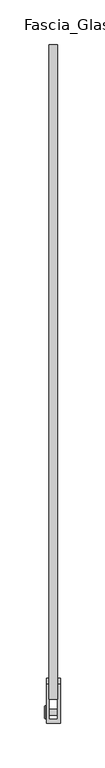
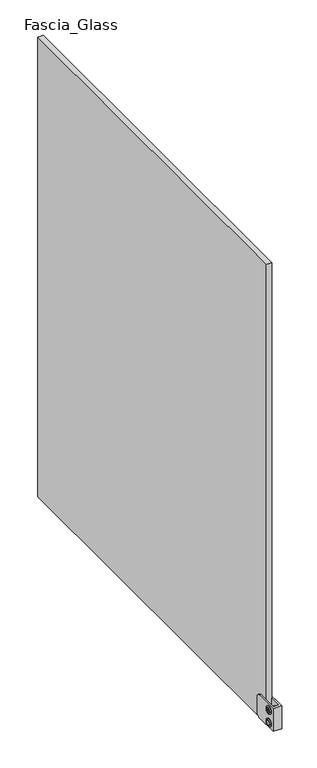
"""IFC4 building model written with IfcOpenShell, lengths in millimetres: railing geometry, Baluster-Excess-Fill-Straight-Panel-VIVA : Fascia_Glass."""

from ifc_helpers import new_model, si_unit, point, frame, origin, place, context, project, spatial, polyline, circle_curve, ellipse_curve, trimmed, outline, extrude, source, transform, mapped, element, save
from ifc_brep_helpers import plane_surface, cylinder_surface, revolved_surface, advanced_brep


def fascia_glass_6bf159dd(model_context):
    return source(origin(), model_context, "Body", "SolidModel", [
        advanced_brep(
        [(36.7665, -753.5969409, 138.7358896), (24.0665, -753.5969409, 138.7358896), (24.0665, -746.506049, 138.7358896), (36.7665, -746.506049, 138.7358896), (24.0665, -757.459284, 138.7358896), (24.0665, -742.6437059, 138.7358896), (23.199388, -751.7075703, 138.7358896), (36.7665, -751.7075703, 138.7358896), (36.7665, -748.3954196, 138.7358896), (23.199388, -748.3954196, 138.7358896), (23.2316551, -757.459284, 138.7358896), (21.9503831, -756.178012, 138.7358896), (21.9503831, -743.9249779, 138.7358896), (23.2316551, -742.6437059, 138.7358896), (21.9503831, -754.3500905, 138.7358896), (21.9503831, -745.7528994, 138.7358896), (23.199388, -754.3500905, 138.7358896), (23.199388, -745.7528994, 138.7358896)],
        [
            (0, 1),
            (1, 2, circle_curve(frame((24.0665, -750.0514949, 138.7358896), z_axis=(1.0, 0.0, 0.0), x_axis=(0.0, 1.0, 0.0)), 3.5454459)),
            (2, 3),
            (3, 0, circle_curve(frame((36.7665, -750.0514949, 138.7358896), z_axis=(-1.0, 0.0, 0.0), x_axis=(0.0, 1.0, 0.0)), 3.5454459)),
            (2, 1, circle_curve(frame((24.0665, -750.0514949, 138.7358896), z_axis=(1.0, 0.0, 0.0), x_axis=(0.0, 1.0, 0.0)), 3.5454459)),
            (0, 3, circle_curve(frame((36.7665, -750.0514949, 138.7358896), z_axis=(-1.0, 0.0, 0.0), x_axis=(0.0, 1.0, 0.0)), 3.5454459)),
            (1, 4),
            (4, 5, circle_curve(frame((24.0665, -750.0514949, 138.7358896), z_axis=(1.0, 0.0, 0.0), x_axis=(0.0, 1.0, 0.0)), 7.4077891)),
            (5, 2),
            (5, 4, circle_curve(frame((24.0665, -750.0514949, 138.7358896), z_axis=(1.0, 0.0, 0.0), x_axis=(0.0, 1.0, 0.0)), 7.4077891)),
            (6, 7),
            (7, 8, circle_curve(frame((36.7665, -750.0514949, 138.7358896), z_axis=(1.0, 0.0, 0.0), x_axis=(0.0, 1.0, 0.0)), 1.6560754)),
            (8, 9),
            (9, 6, circle_curve(frame((23.199388, -750.0514949, 138.7358896), z_axis=(-1.0, 0.0, 0.0), x_axis=(0.0, 1.0, 0.0)), 1.6560754)),
            (8, 7, circle_curve(frame((36.7665, -750.0514949, 138.7358896), z_axis=(1.0, 0.0, 0.0), x_axis=(0.0, 1.0, 0.0)), 1.6560754)),
            (6, 9, circle_curve(frame((23.199388, -750.0514949, 138.7358896), z_axis=(-1.0, 0.0, 0.0), x_axis=(0.0, 1.0, 0.0)), 1.6560754)),
            (10, 11, circle_curve(frame((23.2316551, -756.178012, 138.7358896), z_axis=(0.0, 0.0, -1.0), x_axis=(0.0, -1.0, 0.0)), 1.281272)),
            (11, 12, circle_curve(frame((21.9503831, -750.0514949, 138.7358896), z_axis=(1.0, 0.0, 0.0), x_axis=(0.0, 1.0, 0.0)), 6.1265171)),
            (12, 13, circle_curve(frame((23.2316551, -743.9249779, 138.7358896), z_axis=(0.0, 0.0, -1.0), x_axis=(0.0, 1.0, 0.0)), 1.281272)),
            (13, 10, circle_curve(frame((23.2316551, -750.0514949, 138.7358896), z_axis=(-1.0, 0.0, 0.0), x_axis=(0.0, 1.0, 0.0)), 7.4077891)),
            (12, 11, circle_curve(frame((21.9503831, -750.0514949, 138.7358896), z_axis=(1.0, 0.0, 0.0), x_axis=(0.0, 1.0, 0.0)), 6.1265171)),
            (10, 13, circle_curve(frame((23.2316551, -750.0514949, 138.7358896), z_axis=(-1.0, 0.0, 0.0), x_axis=(0.0, 1.0, 0.0)), 7.4077891)),
            (11, 14),
            (14, 15, circle_curve(frame((21.9503831, -750.0514949, 138.7358896), z_axis=(1.0, 0.0, 0.0), x_axis=(0.0, 1.0, 0.0)), 4.2985955)),
            (15, 12),
            (15, 14, circle_curve(frame((21.9503831, -750.0514949, 138.7358896), z_axis=(1.0, 0.0, 0.0), x_axis=(0.0, 1.0, 0.0)), 4.2985955)),
            (4, 10),
            (13, 5),
            (7, 0),
            (3, 8),
            (14, 16),
            (16, 17, circle_curve(frame((23.199388, -750.0514949, 138.7358896), z_axis=(1.0, 0.0, 0.0), x_axis=(0.0, 1.0, 0.0)), 4.2985955)),
            (17, 15),
            (17, 16, circle_curve(frame((23.199388, -750.0514949, 138.7358896), z_axis=(1.0, 0.0, 0.0), x_axis=(0.0, 1.0, 0.0)), 4.2985955)),
            (16, 6),
            (9, 17),
        ],
        [
            cylinder_surface(frame((27.5632331, -750.0514949, 138.7358896), z_axis=(1.0, 0.0, 0.0), x_axis=(0.0, 1.0, 0.0)), 3.5454459),
            plane_surface(frame((24.0665, -750.0514949, 138.7358896), z_axis=(1.0, 0.0, 0.0), x_axis=(0.0, 1.0, 0.0))),
            revolved_surface(polyline([(36.7665, -748.3954195, 138.7358896), (23.199388, -748.3954195, 138.7358896)]), (27.5632331, -750.0514949, 138.7358896), (1.0, 0.0, 0.0)),
            revolved_surface(trimmed(ellipse_curve(frame((23.2316551, -743.9249779, 138.7358896), z_axis=(0.0, 0.0, -1.0), x_axis=(0.0, 1.0, 0.0)), 1.281272, 1.281272), [point((21.9503831, -743.9249779, 138.7358896))], [point((23.2316551, -742.6437059, 138.7358896))], True, "CARTESIAN"), (27.5632331, -750.0514949, 138.7358896), (1.0, 0.0, 0.0)),
            plane_surface(frame((21.9503831, -750.0514949, 138.7358896), z_axis=(-1.0, 0.0, 0.0), x_axis=(0.0, 1.0, 0.0))),
            cylinder_surface(frame((27.5632331, -750.0514949, 138.7358896), z_axis=(1.0, 0.0, 0.0), x_axis=(0.0, 1.0, 0.0)), 7.4077891),
            plane_surface(frame((36.7665, -750.0514949, 138.7358896), z_axis=(1.0, 0.0, 0.0), x_axis=(0.0, 1.0, 0.0))),
            revolved_surface(polyline([(23.199388, -745.7528993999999, 138.7358896), (21.9503831, -745.7528993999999, 138.7358896)]), (27.5632331, -750.0514949, 138.7358896), (1.0, 0.0, 0.0)),
            plane_surface(frame((23.199388, -750.0514949, 138.7358896), z_axis=(-1.0, 0.0, 0.0), x_axis=(0.0, 1.0, 0.0))),
        ],
        [
            (0, [[1, 2, 3, 4]]),
            (0, [[-3, 5, -1, 6]]),
            (1, [[7, 8, 9, -2]]),
            (1, [[-9, 10, -7, -5]]),
            (2, [[11, 12, 13, 14]]),
            (2, [[-13, 15, -11, 16]]),
            (3, [[17, 18, 19, 20]]),
            (3, [[-19, 21, -17, 22]]),
            (4, [[23, 24, 25, -18]]),
            (4, [[-25, 26, -23, -21]]),
            (5, [[27, -20, 28, -8]]),
            (5, [[-28, -22, -27, -10]]),
            (6, [[29, -4, 30, -12]]),
            (6, [[-30, -6, -29, -15]]),
            (7, [[31, 32, 33, -24]]),
            (7, [[-33, 34, -31, -26]]),
            (8, [[35, -14, 36, -32]]),
            (8, [[-36, -16, -35, -34]]),
        ],
    ),
        advanced_brep(
        [(36.7665, -753.5969409, 114.1296396), (24.0665, -753.5969409, 114.1296396), (24.0665, -746.506049, 114.1296396), (36.7665, -746.506049, 114.1296396), (24.0665, -757.459284, 114.1296396), (24.0665, -742.6437059, 114.1296396), (23.199388, -751.7075703, 114.1296396), (36.7665, -751.7075703, 114.1296396), (36.7665, -748.3954196, 114.1296396), (23.199388, -748.3954196, 114.1296396), (23.2316551, -757.459284, 114.1296396), (21.9503831, -756.178012, 114.1296396), (21.9503831, -743.9249779, 114.1296396), (23.2316551, -742.6437059, 114.1296396), (21.9503831, -754.3500905, 114.1296396), (21.9503831, -745.7528994, 114.1296396), (23.199388, -754.3500905, 114.1296396), (23.199388, -745.7528994, 114.1296396)],
        [
            (0, 1),
            (1, 2, circle_curve(frame((24.0665, -750.0514949, 114.1296396), z_axis=(1.0, 0.0, 0.0), x_axis=(0.0, 1.0, 0.0)), 3.5454459)),
            (2, 3),
            (3, 0, circle_curve(frame((36.7665, -750.0514949, 114.1296396), z_axis=(-1.0, 0.0, 0.0), x_axis=(0.0, 1.0, 0.0)), 3.5454459)),
            (2, 1, circle_curve(frame((24.0665, -750.0514949, 114.1296396), z_axis=(1.0, 0.0, 0.0), x_axis=(0.0, 1.0, 0.0)), 3.5454459)),
            (0, 3, circle_curve(frame((36.7665, -750.0514949, 114.1296396), z_axis=(-1.0, 0.0, 0.0), x_axis=(0.0, 1.0, 0.0)), 3.5454459)),
            (1, 4),
            (4, 5, circle_curve(frame((24.0665, -750.0514949, 114.1296396), z_axis=(1.0, 0.0, 0.0), x_axis=(0.0, 1.0, 0.0)), 7.4077891)),
            (5, 2),
            (5, 4, circle_curve(frame((24.0665, -750.0514949, 114.1296396), z_axis=(1.0, 0.0, 0.0), x_axis=(0.0, 1.0, 0.0)), 7.4077891)),
            (6, 7),
            (7, 8, circle_curve(frame((36.7665, -750.0514949, 114.1296396), z_axis=(1.0, 0.0, 0.0), x_axis=(0.0, 1.0, 0.0)), 1.6560754)),
            (8, 9),
            (9, 6, circle_curve(frame((23.199388, -750.0514949, 114.1296396), z_axis=(-1.0, 0.0, 0.0), x_axis=(0.0, 1.0, 0.0)), 1.6560754)),
            (8, 7, circle_curve(frame((36.7665, -750.0514949, 114.1296396), z_axis=(1.0, 0.0, 0.0), x_axis=(0.0, 1.0, 0.0)), 1.6560754)),
            (6, 9, circle_curve(frame((23.199388, -750.0514949, 114.1296396), z_axis=(-1.0, 0.0, 0.0), x_axis=(0.0, 1.0, 0.0)), 1.6560754)),
            (10, 11, circle_curve(frame((23.2316551, -756.178012, 114.1296396), z_axis=(0.0, 0.0, -1.0), x_axis=(0.0, -1.0, 0.0)), 1.281272)),
            (11, 12, circle_curve(frame((21.9503831, -750.0514949, 114.1296396), z_axis=(1.0, 0.0, 0.0), x_axis=(0.0, 1.0, 0.0)), 6.1265171)),
            (12, 13, circle_curve(frame((23.2316551, -743.9249779, 114.1296396), z_axis=(0.0, 0.0, -1.0), x_axis=(0.0, 1.0, 0.0)), 1.281272)),
            (13, 10, circle_curve(frame((23.2316551, -750.0514949, 114.1296396), z_axis=(-1.0, 0.0, 0.0), x_axis=(0.0, 1.0, 0.0)), 7.4077891)),
            (12, 11, circle_curve(frame((21.9503831, -750.0514949, 114.1296396), z_axis=(1.0, 0.0, 0.0), x_axis=(0.0, 1.0, 0.0)), 6.1265171)),
            (10, 13, circle_curve(frame((23.2316551, -750.0514949, 114.1296396), z_axis=(-1.0, 0.0, 0.0), x_axis=(0.0, 1.0, 0.0)), 7.4077891)),
            (11, 14),
            (14, 15, circle_curve(frame((21.9503831, -750.0514949, 114.1296396), z_axis=(1.0, 0.0, 0.0), x_axis=(0.0, 1.0, 0.0)), 4.2985955)),
            (15, 12),
            (15, 14, circle_curve(frame((21.9503831, -750.0514949, 114.1296396), z_axis=(1.0, 0.0, 0.0), x_axis=(0.0, 1.0, 0.0)), 4.2985955)),
            (7, 0),
            (3, 8),
            (4, 10),
            (13, 5),
            (14, 16),
            (16, 17, circle_curve(frame((23.199388, -750.0514949, 114.1296396), z_axis=(1.0, 0.0, 0.0), x_axis=(0.0, 1.0, 0.0)), 4.2985955)),
            (17, 15),
            (17, 16, circle_curve(frame((23.199388, -750.0514949, 114.1296396), z_axis=(1.0, 0.0, 0.0), x_axis=(0.0, 1.0, 0.0)), 4.2985955)),
            (16, 6),
            (9, 17),
        ],
        [
            cylinder_surface(frame((27.5632331, -750.0514949, 114.1296396), z_axis=(1.0, 0.0, 0.0), x_axis=(0.0, 1.0, 0.0)), 3.5454459),
            plane_surface(frame((24.0665, -750.0514949, 114.1296396), z_axis=(1.0, 0.0, 0.0), x_axis=(0.0, 1.0, 0.0))),
            revolved_surface(polyline([(36.7665, -748.3954195, 114.1296396), (23.199388, -748.3954195, 114.1296396)]), (27.5632331, -750.0514949, 114.1296396), (1.0, 0.0, 0.0)),
            revolved_surface(trimmed(ellipse_curve(frame((23.2316551, -743.9249779, 114.1296396), z_axis=(0.0, 0.0, -1.0), x_axis=(0.0, 1.0, 0.0)), 1.281272, 1.281272), [point((21.9503831, -743.9249779, 114.1296396))], [point((23.2316551, -742.6437059, 114.1296396))], True, "CARTESIAN"), (27.5632331, -750.0514949, 114.1296396), (1.0, 0.0, 0.0)),
            plane_surface(frame((21.9503831, -750.0514949, 114.1296396), z_axis=(-1.0, 0.0, 0.0), x_axis=(0.0, 1.0, 0.0))),
            plane_surface(frame((36.7665, -750.0514949, 114.1296396), z_axis=(1.0, 0.0, 0.0), x_axis=(0.0, 1.0, 0.0))),
            cylinder_surface(frame((27.5632331, -750.0514949, 114.1296396), z_axis=(1.0, 0.0, 0.0), x_axis=(0.0, 1.0, 0.0)), 7.4077891),
            revolved_surface(polyline([(23.199388, -745.7528993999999, 114.1296396), (21.9503831, -745.7528993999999, 114.1296396)]), (27.5632331, -750.0514949, 114.1296396), (1.0, 0.0, 0.0)),
            plane_surface(frame((23.199388, -750.0514949, 114.1296396), z_axis=(-1.0, 0.0, 0.0), x_axis=(0.0, 1.0, 0.0))),
        ],
        [
            (0, [[1, 2, 3, 4]]),
            (0, [[-3, 5, -1, 6]]),
            (1, [[7, 8, 9, -2]]),
            (1, [[-9, 10, -7, -5]]),
            (2, [[11, 12, 13, 14]]),
            (2, [[-13, 15, -11, 16]]),
            (3, [[17, 18, 19, 20]]),
            (3, [[-19, 21, -17, 22]]),
            (4, [[23, 24, 25, -18]]),
            (4, [[-25, 26, -23, -21]]),
            (5, [[27, -4, 28, -12]]),
            (5, [[-28, -6, -27, -15]]),
            (6, [[29, -20, 30, -8]]),
            (6, [[-30, -22, -29, -10]]),
            (7, [[31, 32, 33, -24]]),
            (7, [[-33, 34, -31, -26]]),
            (8, [[35, -14, 36, -32]]),
            (8, [[-36, -16, -35, -34]]),
        ],
    ),
        extrude(outline(polyline([(-754.1454232, 114.1296396), (-752.0984591, 117.6750855), (-748.0045308, 117.6750855), (-745.9575666, 114.1296396), (-748.0045308, 110.5841937), (-752.0984591, 110.5841937), (-754.1454232, 114.1296396)])), frame((21.7024185, 0.0, 0.0), z_axis=(1.0, 0.0, 0.0), x_axis=(0.0, 1.0, 0.0)), (0.0, 0.0, 1.0), 1.4969696),
        advanced_brep(
        [(24.0665, -762.6848397, 148.6577646), (24.0665, -718.2348397, 148.6577646), (24.0665, -711.8848397, 142.3077646), (24.0665, -711.8848397, 110.5577646), (24.0665, -718.2348397, 104.2077646), (24.0665, -762.6848397, 104.2077646), (39.9415, -762.6848397, 148.6577646), (39.9415, -762.6848397, 104.2077646), (39.9415, -718.2348397, 104.2077646), (39.9415, -711.8848397, 110.5577646), (39.9415, -711.8848397, 142.3077646), (39.9415, -718.2348397, 148.6577646), (27.2415, -718.2348397, 104.2077646), (27.2415, -757.9667593, 104.2077646), (36.7665, -757.9667593, 104.2077646), (36.7665, -718.2348397, 104.2077646), (27.2415, -757.9667593, 148.6577646), (36.7665, -757.9667593, 148.6577646), (27.2415, -711.8848397, 110.5577646), (27.2415, -711.8848397, 142.3077646), (27.2415, -718.2348397, 148.6577646), (36.7665, -718.2348397, 148.6577646), (36.7665, -711.8848397, 142.3077646), (36.7665, -711.8848397, 110.5577646)],
        [
            (0, 1),
            (1, 2, circle_curve(frame((24.0665, -718.2348397, 142.3077646), z_axis=(-1.0, 0.0, 0.0), x_axis=(0.0, 1.0, 0.0)), 6.35)),
            (2, 3),
            (3, 4, circle_curve(frame((24.0665, -718.2348397, 110.5577646), z_axis=(-1.0, 0.0, 0.0), x_axis=(0.0, 1.0, 0.0)), 6.35)),
            (4, 5),
            (5, 0),
            (6, 7),
            (7, 8),
            (8, 9, circle_curve(frame((39.9415, -718.2348397, 110.5577646), z_axis=(1.0, 0.0, 0.0), x_axis=(0.0, 1.0, 0.0)), 6.35)),
            (9, 10),
            (10, 11, circle_curve(frame((39.9415, -718.2348397, 142.3077646), z_axis=(1.0, 0.0, 0.0), x_axis=(0.0, 1.0, 0.0)), 6.35)),
            (11, 6),
            (5, 7),
            (6, 0),
            (4, 12),
            (12, 13),
            (13, 14),
            (14, 15),
            (15, 8),
            (13, 16),
            (16, 17),
            (17, 14),
            (12, 18, circle_curve(frame((27.2415, -718.2348397, 110.5577646), z_axis=(1.0, 0.0, 0.0), x_axis=(0.0, 1.0, 0.0)), 6.35)),
            (18, 19),
            (19, 20, circle_curve(frame((27.2415, -718.2348397, 142.3077646), z_axis=(1.0, 0.0, 0.0), x_axis=(0.0, 1.0, 0.0)), 6.35)),
            (20, 16),
            (17, 21),
            (21, 22, circle_curve(frame((36.7665, -718.2348397, 142.3077646), z_axis=(-1.0, 0.0, 0.0), x_axis=(0.0, 1.0, 0.0)), 6.35)),
            (22, 23),
            (23, 15, circle_curve(frame((36.7665, -718.2348397, 110.5577646), z_axis=(-1.0, 0.0, 0.0), x_axis=(0.0, 1.0, 0.0)), 6.35)),
            (23, 9),
            (3, 18),
            (22, 10),
            (2, 19),
            (21, 11),
            (1, 20),
        ],
        [
            plane_surface(frame((24.0665, -762.6848397, 104.2077646), z_axis=(-1.0, 0.0, 0.0), x_axis=(0.0, 0.0, -1.0))),
            plane_surface(frame((39.9415, -762.6848397, 104.2077646), z_axis=(1.0, 0.0, 0.0), x_axis=(0.0, 0.0, 1.0))),
            plane_surface(frame((24.0665, -762.6848397, 148.6577646), z_axis=(0.0, -1.0, 0.0), x_axis=(1.0, 0.0, 0.0))),
            plane_surface(frame((24.0665, -762.6848397, 104.2077646), z_axis=(0.0, 0.0, -1.0), x_axis=(1.0, 0.0, 0.0))),
            plane_surface(frame((36.7665, -757.9667593, 161.3577646), z_axis=(0.0, 1.0, 0.0), x_axis=(0.0, 0.0, -1.0))),
            plane_surface(frame((27.2415, -757.9667593, 161.3577646), z_axis=(1.0, 0.0, 0.0), x_axis=(0.0, 0.0, -1.0))),
            plane_surface(frame((36.7665, -699.1848397, 161.3577646), z_axis=(-1.0, 0.0, 0.0), x_axis=(0.0, 0.0, -1.0))),
            cylinder_surface(frame((39.9415, -718.2348397, 110.5577646), z_axis=(-1.0, 0.0, 0.0), x_axis=(0.0, 1.0, 0.0)), 6.35),
            plane_surface(frame((24.0665, -711.8848397, 110.5577646), z_axis=(0.0, 1.0, 0.0), x_axis=(1.0, 0.0, 0.0))),
            cylinder_surface(frame((39.9415, -718.2348397, 142.3077646), z_axis=(-1.0, 0.0, 0.0), x_axis=(0.0, 1.0, 0.0)), 6.35),
            plane_surface(frame((24.0665, -718.2348397, 148.6577646), z_axis=(0.0, 0.0, 1.0), x_axis=(1.0, 0.0, 0.0))),
        ],
        [
            (0, [[1, 2, 3, 4, 5, 6]]),
            (1, [[7, 8, 9, 10, 11, 12]]),
            (2, [[13, -7, 14, -6]]),
            (3, [[15, 16, 17, 18, 19, -8, -13, -5]]),
            (4, [[-17, 20, 21, 22]]),
            (5, [[-16, 23, 24, 25, 26, -20]]),
            (6, [[27, 28, 29, 30, -18, -22]]),
            (7, [[-19, -30, 31, -9]]),
            (7, [[32, -23, -15, -4]]),
            (8, [[-31, -29, 33, -10]]),
            (8, [[34, -24, -32, -3]]),
            (9, [[-33, -28, 35, -11]]),
            (9, [[36, -25, -34, -2]]),
            (10, [[-14, -12, -35, -27, -21, -26, -36, -1]]),
        ],
    ),
        extrude(outline(polyline([(36.7665, -1.0851207), (36.7665, -735.7417593), (27.2415, -735.7417593), (27.2415, -1.0851207), (36.7665, -1.0851207)])), frame((0.0, 0.0, 101.6), z_axis=(0.0, 0.0, 1.0), x_axis=(1.0, 0.0, 0.0)), (0.0, 0.0, 1.0), 901.7),
    ])


if __name__ == "__main__":
    model = new_model("IFC4")
    model_context = context("Model", 3, world=origin())
    ifc_project = project(units=[si_unit("LENGTHUNIT", "METRE", prefix="MILLI")], contexts=[model_context])
    site = spatial("IfcSite", under=ifc_project)
    building = spatial("IfcBuilding", under=site)
    placement = place(None, origin())
    fascia_glass_shape = fascia_glass_6bf159dd(model_context)
    element("IfcRailing", 1, ObjectType="Baluster-Excess-Fill-Straight-Panel-VIVA : Fascia_Glass", at=placement, inside=building, context=model_context, shape_type="MappedRepresentation", body=[
        mapped(fascia_glass_shape, transform((0.0, 0.0, 0.0), x_axis=(1.0, 0.0, 0.0), y_axis=(0.0, 1.0, 0.0), z_axis=(0.0, 0.0, 1.0))),
    ])
    save(model, "model.ifc")
